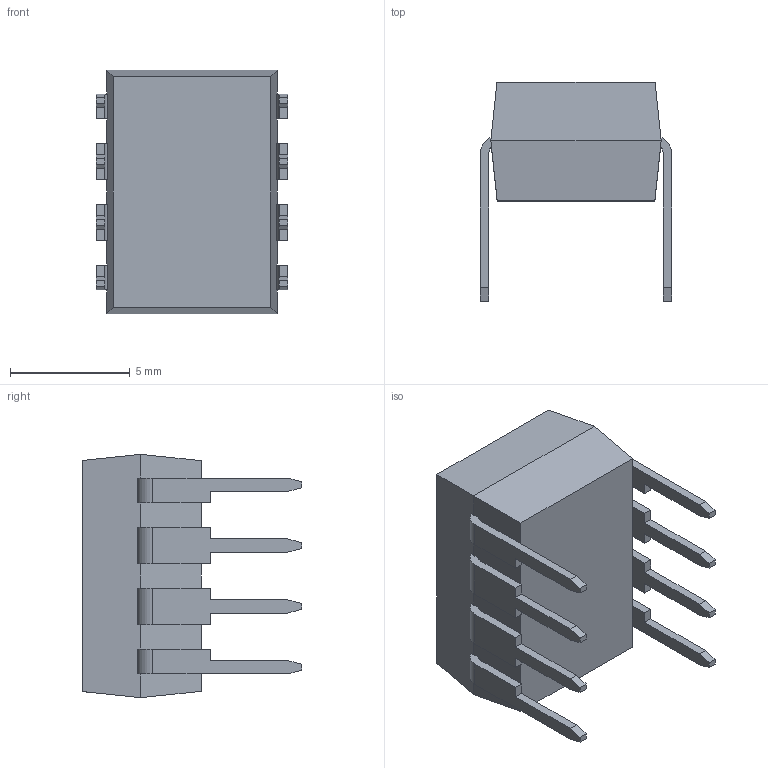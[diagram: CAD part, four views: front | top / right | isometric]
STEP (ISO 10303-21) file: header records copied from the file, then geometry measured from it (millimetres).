
FILE_DESCRIPTION (( 'STEP AP214' ), '1' );
FILE_NAME ('DIP8 (MS-001.BA).STEP', '2012-10-16T13:01:49', ( 'Tester2' ), ( '' ), 'SwSTEP 2.0', 'SolidWorks 2012', '' );
FILE_SCHEMA (( 'AUTOMOTIVE_DESIGN' ));
Length unit declared in the file: millimetre
Products named in the file (1): DIP8 (MS-001.BA)
Bounding box: 7.98 x 9.14 x 10.16 mm (x, y, z)
Volume: 351.2 mm3; surface area: 426 mm2
Topology: 1 solids, 1 shells, 111 faces, 323 edges, 214 vertices
Faces by surface type: plane 93, cylinder 18
Entity records: 3820 total; most frequent: CARTESIAN_POINT 649, ORIENTED_EDGE 646, DIRECTION 583, EDGE_CURVE 323, LINE 287, VECTOR 287, VERTEX_POINT 214, AXIS2_PLACEMENT_3D 148
